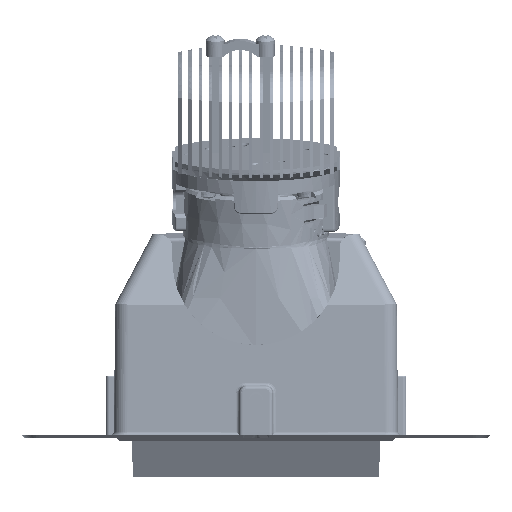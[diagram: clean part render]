
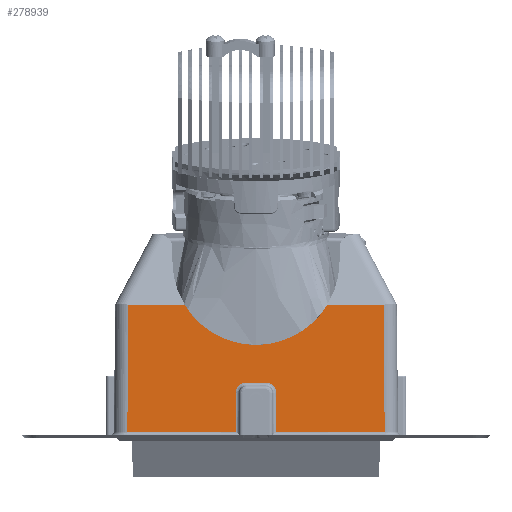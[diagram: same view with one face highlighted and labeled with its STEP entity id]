
A CAD part, front view. The second image highlights one B-rep face of the part: STEP entity #278939.
In plain terms, the highlighted planar face has unit normal (0, -1, 0.009).
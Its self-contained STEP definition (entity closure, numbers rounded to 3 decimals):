
#275248=CARTESIAN_POINT('Vertex',(38.16,-42.16,39.7)) ;
#275251=CARTESIAN_POINT('Line Origine',(38.33,-42.33,20.2)) ;
#275255=CARTESIAN_POINT('Vertex',(38.492,-42.491,1.691)) ;
#276349=CARTESIAN_POINT('Vertex',(21.365,-42.16,39.7)) ;
#276352=CARTESIAN_POINT('Line Origine',(29.763,-42.16,39.7)) ;
#278801=CARTESIAN_POINT('Axis2P3D Location',(0.,-42.5,0.7)) ;
#278806=CARTESIAN_POINT('Line Origine',(-38.326,-42.326,20.696)) ;
#278810=CARTESIAN_POINT('Vertex',(-38.16,-42.16,39.7)) ;
#278812=CARTESIAN_POINT('Vertex',(-38.492,-42.491,1.691)) ;
#278815=CARTESIAN_POINT('Line Origine',(-22.246,-42.491,1.691)) ;
#278819=CARTESIAN_POINT('Vertex',(-6.,-42.491,1.691)) ;
#278822=CARTESIAN_POINT('Line Origine',(-6.,-42.44,7.541)) ;
#278826=CARTESIAN_POINT('Vertex',(-6.,-42.389,13.391)) ;
#278830=CARTESIAN_POINT('Control Point',(-3.,-42.363,16.391)) ;
#278831=CARTESIAN_POINT('Control Point',(-3.34,-42.363,16.391)) ;
#278832=CARTESIAN_POINT('Control Point',(-3.679,-42.363,16.343)) ;
#278833=CARTESIAN_POINT('Control Point',(-4.006,-42.364,16.248)) ;
#278834=CARTESIAN_POINT('Control Point',(-4.631,-42.367,15.966)) ;
#278835=CARTESIAN_POINT('Control Point',(-5.153,-42.371,15.522)) ;
#278836=CARTESIAN_POINT('Control Point',(-5.38,-42.373,15.264)) ;
#278837=CARTESIAN_POINT('Control Point',(-5.715,-42.377,14.755)) ;
#278838=CARTESIAN_POINT('Control Point',(-5.913,-42.382,14.18)) ;
#278839=CARTESIAN_POINT('Control Point',(-5.971,-42.385,13.921)) ;
#278840=CARTESIAN_POINT('Control Point',(-6.,-42.387,13.656)) ;
#278841=CARTESIAN_POINT('Control Point',(-6.,-42.389,13.391)) ;
#278842=CARTESIAN_POINT('Vertex',(-3.,-42.363,16.391)) ;
#278845=CARTESIAN_POINT('Line Origine',(0.,-42.363,16.391)) ;
#278849=CARTESIAN_POINT('Vertex',(3.,-42.363,16.391)) ;
#278853=CARTESIAN_POINT('Control Point',(6.,-42.389,13.391)) ;
#278854=CARTESIAN_POINT('Control Point',(6.,-42.386,13.731)) ;
#278855=CARTESIAN_POINT('Control Point',(5.952,-42.383,14.07)) ;
#278856=CARTESIAN_POINT('Control Point',(5.857,-42.38,14.398)) ;
#278857=CARTESIAN_POINT('Control Point',(5.575,-42.375,15.022)) ;
#278858=CARTESIAN_POINT('Control Point',(5.131,-42.37,15.544)) ;
#278859=CARTESIAN_POINT('Control Point',(4.873,-42.368,15.772)) ;
#278860=CARTESIAN_POINT('Control Point',(4.363,-42.366,16.107)) ;
#278861=CARTESIAN_POINT('Control Point',(3.789,-42.364,16.304)) ;
#278862=CARTESIAN_POINT('Control Point',(3.53,-42.363,16.362)) ;
#278863=CARTESIAN_POINT('Control Point',(3.265,-42.363,16.391)) ;
#278864=CARTESIAN_POINT('Control Point',(3.,-42.363,16.391)) ;
#278865=CARTESIAN_POINT('Vertex',(6.,-42.389,13.391)) ;
#278868=CARTESIAN_POINT('Line Origine',(6.,-42.44,7.541)) ;
#278872=CARTESIAN_POINT('Vertex',(6.,-42.491,1.691)) ;
#278875=CARTESIAN_POINT('Line Origine',(22.246,-42.491,1.691)) ;
#278881=CARTESIAN_POINT('Control Point',(-21.365,-42.16,39.7)) ;
#278882=CARTESIAN_POINT('Control Point',(-20.982,-42.165,39.07)) ;
#278883=CARTESIAN_POINT('Control Point',(-20.584,-42.17,38.462)) ;
#278884=CARTESIAN_POINT('Control Point',(-20.171,-42.176,37.88)) ;
#278885=CARTESIAN_POINT('Control Point',(-19.441,-42.184,36.932)) ;
#278886=CARTESIAN_POINT('Control Point',(-18.677,-42.191,36.053)) ;
#278887=CARTESIAN_POINT('Control Point',(-18.349,-42.195,35.693)) ;
#278888=CARTESIAN_POINT('Control Point',(-17.328,-42.204,34.623)) ;
#278889=CARTESIAN_POINT('Control Point',(-16.264,-42.212,33.659)) ;
#278890=CARTESIAN_POINT('Control Point',(-15.501,-42.218,33.032)) ;
#278891=CARTESIAN_POINT('Control Point',(-13.937,-42.228,31.864)) ;
#278892=CARTESIAN_POINT('Control Point',(-12.32,-42.237,30.89)) ;
#278893=CARTESIAN_POINT('Control Point',(-11.481,-42.24,30.443)) ;
#278894=CARTESIAN_POINT('Control Point',(-9.485,-42.249,29.488)) ;
#278895=CARTESIAN_POINT('Control Point',(-7.449,-42.255,28.77)) ;
#278896=CARTESIAN_POINT('Control Point',(-6.28,-42.258,28.439)) ;
#278897=CARTESIAN_POINT('Control Point',(-3.657,-42.263,27.859)) ;
#278898=CARTESIAN_POINT('Control Point',(-1.011,-42.265,27.638)) ;
#278899=CARTESIAN_POINT('Control Point',(0.468,-42.265,27.622)) ;
#278900=CARTESIAN_POINT('Control Point',(3.117,-42.264,27.786)) ;
#278901=CARTESIAN_POINT('Control Point',(5.747,-42.259,28.306)) ;
#278902=CARTESIAN_POINT('Control Point',(6.927,-42.256,28.613)) ;
#278903=CARTESIAN_POINT('Control Point',(8.762,-42.251,29.215)) ;
#278904=CARTESIAN_POINT('Control Point',(10.566,-42.244,30.008)) ;
#278905=CARTESIAN_POINT('Control Point',(11.229,-42.241,30.326)) ;
#278906=CARTESIAN_POINT('Control Point',(12.691,-42.235,31.096)) ;
#278907=CARTESIAN_POINT('Control Point',(14.119,-42.227,32.011)) ;
#278908=CARTESIAN_POINT('Control Point',(14.887,-42.222,32.56)) ;
#278909=CARTESIAN_POINT('Control Point',(16.199,-42.213,33.593)) ;
#278910=CARTESIAN_POINT('Control Point',(17.46,-42.203,34.769)) ;
#278911=CARTESIAN_POINT('Control Point',(17.956,-42.198,35.267)) ;
#278912=CARTESIAN_POINT('Control Point',(18.99,-42.189,36.376)) ;
#278913=CARTESIAN_POINT('Control Point',(19.969,-42.178,37.6)) ;
#278914=CARTESIAN_POINT('Control Point',(20.455,-42.172,38.266)) ;
#278915=CARTESIAN_POINT('Control Point',(20.92,-42.166,38.968)) ;
#278916=CARTESIAN_POINT('Control Point',(21.365,-42.16,39.7)) ;
#278917=CARTESIAN_POINT('Vertex',(-21.365,-42.16,39.7)) ;
#278920=CARTESIAN_POINT('Line Origine',(-29.763,-42.16,39.7)) ;
#275252=DIRECTION('Vector Direction',(-0.009,0.009,1.)) ;
#276353=DIRECTION('Vector Direction',(-1.,0.,0.)) ;
#278802=DIRECTION('Axis2P3D Direction',(0.,-1.,0.009)) ;
#278803=DIRECTION('Axis2P3D XDirection',(-1.,0.,0.)) ;
#278807=DIRECTION('Vector Direction',(-0.009,-0.009,-1.)) ;
#278816=DIRECTION('Vector Direction',(-1.,0.,0.)) ;
#278823=DIRECTION('Vector Direction',(0.,-0.009,-1.)) ;
#278846=DIRECTION('Vector Direction',(-1.,0.,0.)) ;
#278869=DIRECTION('Vector Direction',(0.,0.009,1.)) ;
#278876=DIRECTION('Vector Direction',(-1.,0.,0.)) ;
#278921=DIRECTION('Vector Direction',(1.,0.,0.)) ;
#278804=AXIS2_PLACEMENT_3D('Plane Axis2P3D',#278801,#278802,#278803) ;
#278926=ORIENTED_EDGE('',*,*,#278814,.T.) ;
#278927=ORIENTED_EDGE('',*,*,#278821,.F.) ;
#278928=ORIENTED_EDGE('',*,*,#278828,.F.) ;
#278929=ORIENTED_EDGE('',*,*,#278844,.F.) ;
#278930=ORIENTED_EDGE('',*,*,#278851,.F.) ;
#278931=ORIENTED_EDGE('',*,*,#278867,.F.) ;
#278932=ORIENTED_EDGE('',*,*,#278874,.F.) ;
#278933=ORIENTED_EDGE('',*,*,#278879,.F.) ;
#278934=ORIENTED_EDGE('',*,*,#275257,.F.) ;
#278935=ORIENTED_EDGE('',*,*,#276356,.T.) ;
#278936=ORIENTED_EDGE('',*,*,#278919,.F.) ;
#278937=ORIENTED_EDGE('',*,*,#278924,.F.) ;
#275253=VECTOR('Line Direction',#275252,1.) ;
#276354=VECTOR('Line Direction',#276353,1.) ;
#278808=VECTOR('Line Direction',#278807,1.) ;
#278817=VECTOR('Line Direction',#278816,1.) ;
#278824=VECTOR('Line Direction',#278823,1.) ;
#278847=VECTOR('Line Direction',#278846,1.) ;
#278870=VECTOR('Line Direction',#278869,1.) ;
#278877=VECTOR('Line Direction',#278876,1.) ;
#278922=VECTOR('Line Direction',#278921,1.) ;
#278939=ADVANCED_FACE('X.XP1CK.1\\386\\MANIFOLD_SOLID_BREP #281578',(#278938),#278805,.T.) ;
#278829=B_SPLINE_CURVE_WITH_KNOTS('',5,(#278830,#278831,#278832,#278833,#278834,#278835,#278836,#278837,#278838,#278839,#278840,#278841),.UNSPECIFIED.,.F.,.U.,(6,3,3,6),(0.,2.405,4.805,6.681),.UNSPECIFIED.) ;
#278852=B_SPLINE_CURVE_WITH_KNOTS('',5,(#278853,#278854,#278855,#278856,#278857,#278858,#278859,#278860,#278861,#278862,#278863,#278864),.UNSPECIFIED.,.F.,.U.,(6,3,3,6),(0.,2.405,4.805,6.682),.UNSPECIFIED.) ;
#278880=B_SPLINE_CURVE_WITH_KNOTS('',5,(#278881,#278882,#278883,#278884,#278885,#278886,#278887,#278888,#278889,#278890,#278891,#278892,#278893,#278894,#278895,#278896,#278897,#278898,#278899,#278900,#278901,#278902,#278903,#278904,#278905,#278906,#278907,#278908,#278909,#278910,#278911,#278912,#278913,#278914,#278915,#278916),.UNSPECIFIED.,.F.,.U.,(6,3,3,3,3,3,3,3,3,3,3,6),(0.,4.346,7.413,13.951,20.951,30.255,41.639,50.954,56.282,63.011,67.753,72.803),.UNSPECIFIED.) ;
#275257=EDGE_CURVE('',#275249,#275256,#275254,.F.) ;
#276356=EDGE_CURVE('',#275249,#276350,#276355,.T.) ;
#278814=EDGE_CURVE('',#278811,#278813,#278809,.T.) ;
#278821=EDGE_CURVE('',#278820,#278813,#278818,.T.) ;
#278828=EDGE_CURVE('',#278827,#278820,#278825,.T.) ;
#278844=EDGE_CURVE('',#278843,#278827,#278829,.T.) ;
#278851=EDGE_CURVE('',#278850,#278843,#278848,.T.) ;
#278867=EDGE_CURVE('',#278866,#278850,#278852,.T.) ;
#278874=EDGE_CURVE('',#278873,#278866,#278871,.T.) ;
#278879=EDGE_CURVE('',#275256,#278873,#278878,.T.) ;
#278919=EDGE_CURVE('',#278918,#276350,#278880,.T.) ;
#278924=EDGE_CURVE('',#278811,#278918,#278923,.T.) ;
#278925=EDGE_LOOP('',(#278926,#278927,#278928,#278929,#278930,#278931,#278932,#278933,#278934,#278935,#278936,#278937)) ;
#278938=FACE_OUTER_BOUND('',#278925,.T.) ;
#275254=LINE('Line',#275251,#275253) ;
#276355=LINE('Line',#276352,#276354) ;
#278809=LINE('Line',#278806,#278808) ;
#278818=LINE('Line',#278815,#278817) ;
#278825=LINE('Line',#278822,#278824) ;
#278848=LINE('Line',#278845,#278847) ;
#278871=LINE('Line',#278868,#278870) ;
#278878=LINE('Line',#278875,#278877) ;
#278923=LINE('Line',#278920,#278922) ;
#278805=PLANE('',#278804) ;
#275249=VERTEX_POINT('',#275248) ;
#275256=VERTEX_POINT('',#275255) ;
#276350=VERTEX_POINT('',#276349) ;
#278811=VERTEX_POINT('',#278810) ;
#278813=VERTEX_POINT('',#278812) ;
#278820=VERTEX_POINT('',#278819) ;
#278827=VERTEX_POINT('',#278826) ;
#278843=VERTEX_POINT('',#278842) ;
#278850=VERTEX_POINT('',#278849) ;
#278866=VERTEX_POINT('',#278865) ;
#278873=VERTEX_POINT('',#278872) ;
#278918=VERTEX_POINT('',#278917) ;
